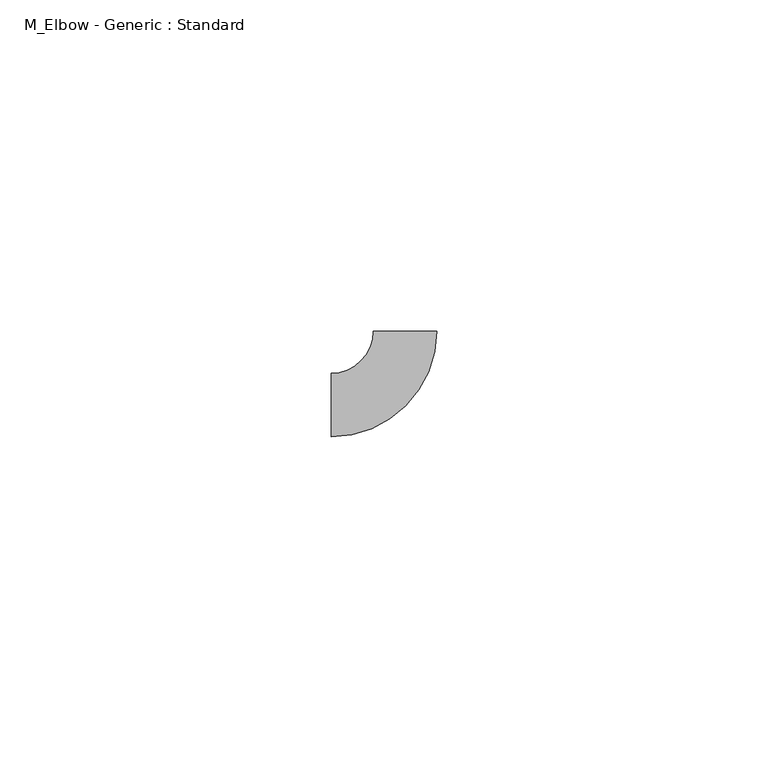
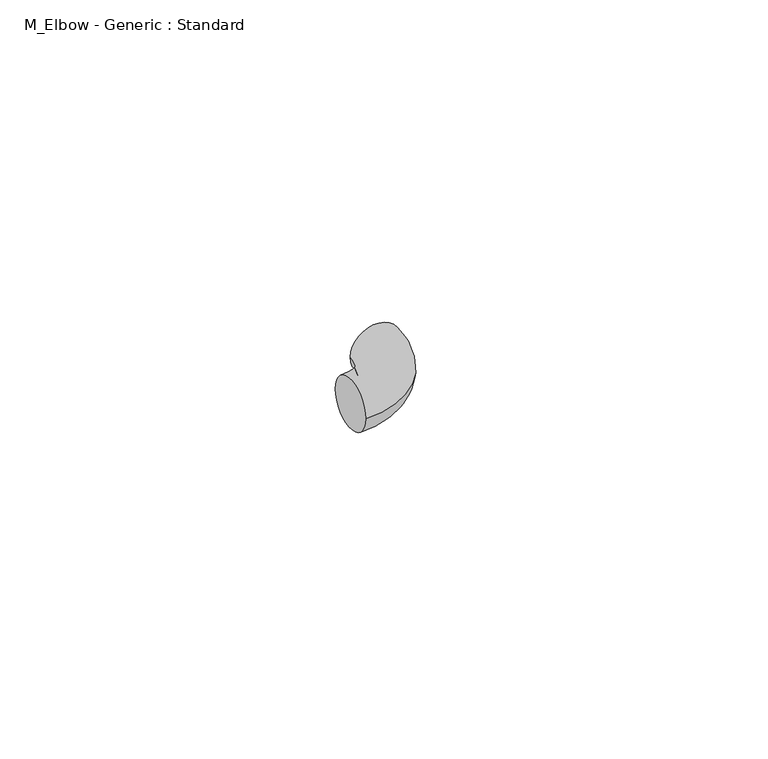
"""IFC4 building model written with IfcOpenShell, lengths in millimetres: pipe fitting geometry, M_Elbow - Generic : Standard."""

from ifc_helpers import new_model, si_unit, point, frame, origin, place, context, project, spatial, circle_curve, ellipse_curve, trimmed, source, transform, mapped, element, save
from ifc_brep_helpers import plane_surface, revolved_surface, advanced_brep


def m_elbow_generic_standard_9f216293(model_context):
    return source(origin(), model_context, "Body", "AdvancedBrep", [
        advanced_brep(
        [(-11.1368039, -4.7875, 0.0), (-11.1368039, 4.7875, 0.0), (4.788196, 11.1365047, 0.0), (-4.7868039, 11.1371031, 0.0)],
        [
            (0, 1, circle_curve(frame((-11.1368039, 0.0, 0.0), z_axis=(-1.0, 0.0, 0.0), x_axis=(0.0, 1.0, 0.0)), 4.7875)),
            (1, 0, circle_curve(frame((-11.1368039, 0.0, 0.0), z_axis=(-1.0, 0.0, 0.0), x_axis=(0.0, 1.0, 0.0)), 4.7875)),
            (2, 3, circle_curve(frame((0.0006961, 11.1368039, 0.0), z_axis=(6.250000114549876e-05, 0.9999999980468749, 0.0), x_axis=(-0.9999999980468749, 6.250000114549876e-05, 0.0)), 4.7875)),
            (3, 2, circle_curve(frame((0.0006961, 11.1368039, 0.0), z_axis=(6.250000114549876e-05, 0.9999999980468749, 0.0), x_axis=(-0.9999999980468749, 6.250000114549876e-05, 0.0)), 4.7875)),
            (3, 1, circle_curve(frame((-11.1368039, 11.1375, 0.0), z_axis=(0.0, 0.0, -1.0), x_axis=(0.0, -1.0, 0.0)), 6.35)),
            (0, 2, circle_curve(frame((-11.1368039, 11.1375, 0.0), z_axis=(0.0, 0.0, 1.0), x_axis=(0.0, -1.0, 0.0)), 15.925)),
        ],
        [
            plane_surface(frame((-11.1368039, 0.0, 0.0), z_axis=(-1.0, 0.0, 0.0), x_axis=(0.0, 0.0, 1.0))),
            plane_surface(frame((0.0006961, 11.1368039, 0.0), z_axis=(6.250000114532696e-05, 0.999999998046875, 0.0), x_axis=(0.0, 0.0, 1.0))),
            revolved_surface(trimmed(ellipse_curve(frame((-11.1368039, 0.0, 0.0), z_axis=(-1.0, 0.0, 0.0), x_axis=(0.0, 1.0, 0.0)), 4.7875, 4.7875), [point((-11.1368039, -4.7875, 0.0))], [point((-11.1368039, 4.7875, 0.0))], True, "CARTESIAN"), (-11.1368039, 11.1375, 0.0), (0.0, 0.0, 1.0)),
            revolved_surface(trimmed(ellipse_curve(frame((-11.1368039, 0.0, 0.0), z_axis=(-1.0, 0.0, 0.0), x_axis=(0.0, 1.0, 0.0)), 4.7875, 4.7875), [point((-11.1368039, 4.7875, 0.0))], [point((-11.1368039, -4.7875, 0.0))], True, "CARTESIAN"), (-11.1368039, 11.1375, 0.0), (0.0, 0.0, 1.0)),
        ],
        [
            (0, [[1, 2]]),
            (1, [[3, 4]]),
            (2, [[5, -1, 6, -4]]),
            (3, [[-6, -2, -5, -3]]),
        ],
    ),
    ])


if __name__ == "__main__":
    model = new_model("IFC4")
    model_context = context("Model", 3, world=origin())
    ifc_project = project(units=[si_unit("LENGTHUNIT", "METRE", prefix="MILLI")], contexts=[model_context])
    site = spatial("IfcSite", under=ifc_project)
    building = spatial("IfcBuilding", under=site)
    placement = place(None, origin())
    m_elbow_generic_standard_shape = m_elbow_generic_standard_9f216293(model_context)
    element("IfcPipeFitting", 1, ObjectType="M_Elbow - Generic : Standard", at=placement, inside=building, context=model_context, shape_type="MappedRepresentation", body=[
        mapped(m_elbow_generic_standard_shape, transform((0.0, 0.0, 0.0), x_axis=(1.0, 0.0, 0.0), y_axis=(0.0, 1.0, 0.0), z_axis=(0.0, 0.0, 1.0))),
    ])
    save(model, "model.ifc")
